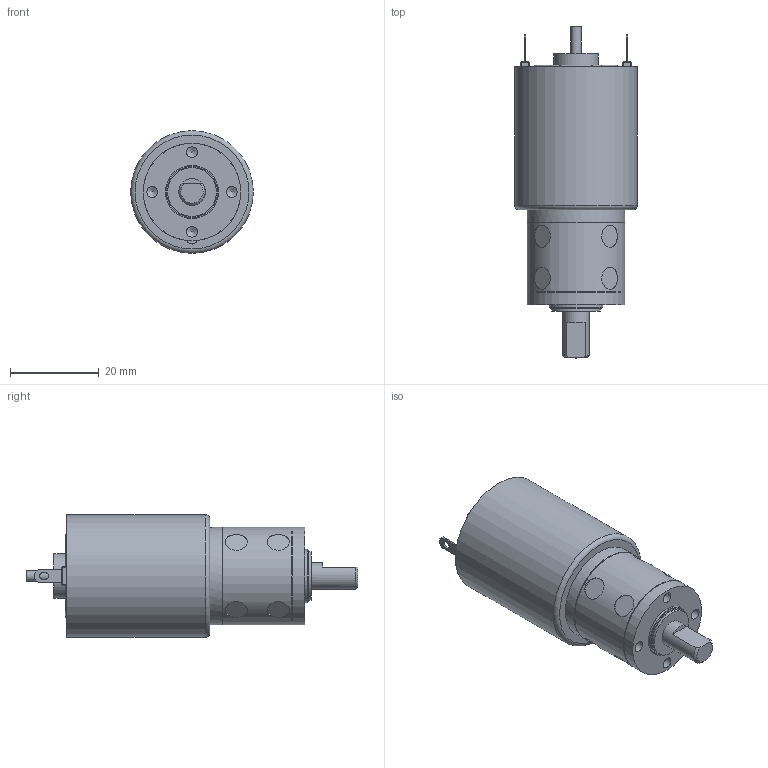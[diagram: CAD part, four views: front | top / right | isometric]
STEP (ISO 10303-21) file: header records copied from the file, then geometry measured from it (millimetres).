
FILE_DESCRIPTION((''),'2;1');
FILE_NAME('C:\Documents and Settings\SSEGAWA\デスクトップ\TP-2732D-KP-1.STP','2013-08-01T11:11:57',('SSEGAWA'),(''),'Autodesk Inventor 2010','Autodesk Inventor 2010','');
FILE_SCHEMA(('CONFIG_CONTROL_DESIGN'));
Length unit declared in the file: millimetre
Products named in the file (1): tp_2732def_kp_1_Shrinkwrap_1
Bounding box: 27.7 x 75 x 27.7 mm (x, y, z)
Volume: 28074.9 mm3; surface area: 6353.1 mm2
Topology: 1 solids, 3 shells, 160 faces, 346 edges, 224 vertices
Faces by surface type: plane 91, cylinder 36, bspline 29, torus 3, cone 1
Full cylindrical faces by diameter (mm): 2 x2, 2.305 x1, 2.5 x5, 5 x4, 6 x1, 9 x1, 10 x1, 11 x1, 11.5 x1, 12 x1, 19 x1, 21.6 x2, 22 x3, 26.7 x1, 27.7 x1
Entity records: 4631 total; most frequent: CARTESIAN_POINT 1275, DIRECTION 632, ORIENTED_EDGE 568, EDGE_CURVE 284, EDGE_LOOP 241, AXIS2_PLACEMENT_3D 234, VERTEX_POINT 207, VECTOR 164
